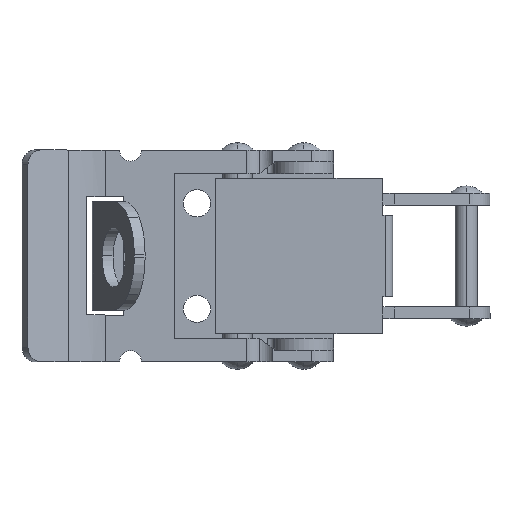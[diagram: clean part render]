
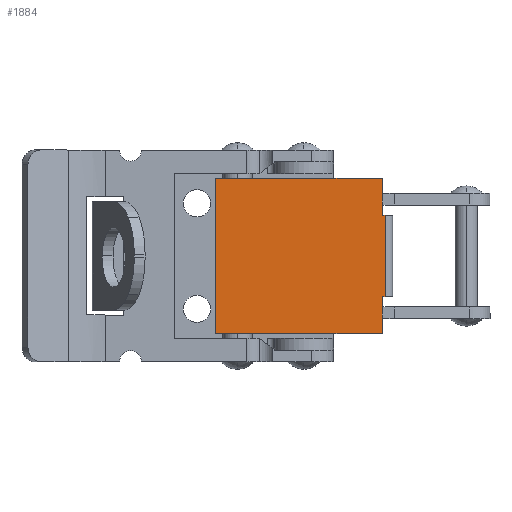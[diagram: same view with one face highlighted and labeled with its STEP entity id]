
A CAD part, top view. The second image highlights one B-rep face of the part: STEP entity #1884.
In plain terms, the highlighted planar face has unit normal (0, 0, 1).
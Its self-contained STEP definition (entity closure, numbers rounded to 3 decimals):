
#1409=CARTESIAN_POINT('',(11.847,-3.163,4.05));
#1410=VERTEX_POINT('',#1409);
#1420=CARTESIAN_POINT('',(11.45,-3.209,4.05));
#1421=VERTEX_POINT('',#1420);
#1422=CARTESIAN_POINT('',(11.45,-3.209,4.05));
#1423=DIRECTION('',(0.993,0.115,0.0));
#1424=VECTOR('',#1423,0.4);
#1425=LINE('',#1422,#1424);
#1426=EDGE_CURVE('',#1421,#1410,#1425,.T.);
#1467=CARTESIAN_POINT('',(12.025,-8.176,4.05));
#1468=VERTEX_POINT('',#1467);
#1469=CARTESIAN_POINT('',(12.025,-8.176,4.05));
#1470=DIRECTION('',(-0.115,0.993,0.0));
#1471=VECTOR('',#1470,5.);
#1472=LINE('',#1469,#1471);
#1473=EDGE_CURVE('',#1468,#1421,#1472,.T.);
#1498=CARTESIAN_POINT('',(10.582,7.764,4.05));
#1499=VERTEX_POINT('',#1498);
#1507=CARTESIAN_POINT('',(11.847,-3.163,4.05));
#1508=DIRECTION('',(-0.115,0.993,0.0));
#1509=VECTOR('',#1508,11.0);
#1510=LINE('',#1507,#1509);
#1511=EDGE_CURVE('',#1410,#1499,#1510,.T.);
#1595=CARTESIAN_POINT('',(9.609,12.685,4.05));
#1596=VERTEX_POINT('',#1595);
#1603=CARTESIAN_POINT('',(10.185,7.718,4.05));
#1604=VERTEX_POINT('',#1603);
#1605=CARTESIAN_POINT('',(10.185,7.718,4.05));
#1606=DIRECTION('',(-0.115,0.993,0.0));
#1607=VECTOR('',#1606,5.);
#1608=LINE('',#1605,#1607);
#1609=EDGE_CURVE('',#1604,#1596,#1608,.T.);
#1629=CARTESIAN_POINT('',(10.582,7.764,4.05));
#1630=DIRECTION('',(-0.993,-0.115,0.0));
#1631=VECTOR('',#1630,0.4);
#1632=LINE('',#1629,#1631);
#1633=EDGE_CURVE('',#1499,#1604,#1632,.T.);
#1654=CARTESIAN_POINT('',(-12.841,10.085,4.05));
#1655=VERTEX_POINT('',#1654);
#1662=CARTESIAN_POINT('',(9.609,12.685,4.05));
#1663=DIRECTION('',(-0.993,-0.115,0.));
#1664=VECTOR('',#1663,22.6);
#1665=LINE('',#1662,#1664);
#1666=EDGE_CURVE('',#1596,#1655,#1665,.T.);
#1778=CARTESIAN_POINT('',(-10.425,-10.775,4.05));
#1779=VERTEX_POINT('',#1778);
#1786=CARTESIAN_POINT('',(-10.425,-10.775,4.05));
#1787=DIRECTION('',(-0.115,0.993,0.));
#1788=VECTOR('',#1787,21.0);
#1789=LINE('',#1786,#1788);
#1790=EDGE_CURVE('',#1779,#1655,#1789,.T.);
#1864=CARTESIAN_POINT('',(13.416,-8.015,4.05));
#1865=DIRECTION('',(0.0,0.0,1.0));
#1866=DIRECTION('',(0.993,0.115,0.0));
#1867=AXIS2_PLACEMENT_3D('',#1864,#1865,#1866);
#1868=PLANE('',#1867);
#1869=ORIENTED_EDGE('',*,*,#1426,.T.);
#1870=ORIENTED_EDGE('',*,*,#1511,.T.);
#1871=ORIENTED_EDGE('',*,*,#1633,.T.);
#1872=ORIENTED_EDGE('',*,*,#1609,.T.);
#1873=ORIENTED_EDGE('',*,*,#1666,.T.);
#1874=ORIENTED_EDGE('',*,*,#1790,.F.);
#1875=CARTESIAN_POINT('',(12.025,-8.176,4.05));
#1876=DIRECTION('',(-0.993,-0.115,0.));
#1877=VECTOR('',#1876,22.6);
#1878=LINE('',#1875,#1877);
#1879=EDGE_CURVE('',#1468,#1779,#1878,.T.);
#1880=ORIENTED_EDGE('',*,*,#1879,.F.);
#1881=ORIENTED_EDGE('',*,*,#1473,.T.);
#1882=EDGE_LOOP('',(#1869,#1870,#1871,#1872,#1873,#1874,#1880,#1881));
#1883=FACE_OUTER_BOUND('',#1882,.T.);
#1884=ADVANCED_FACE('',(#1883),#1868,.T.);
